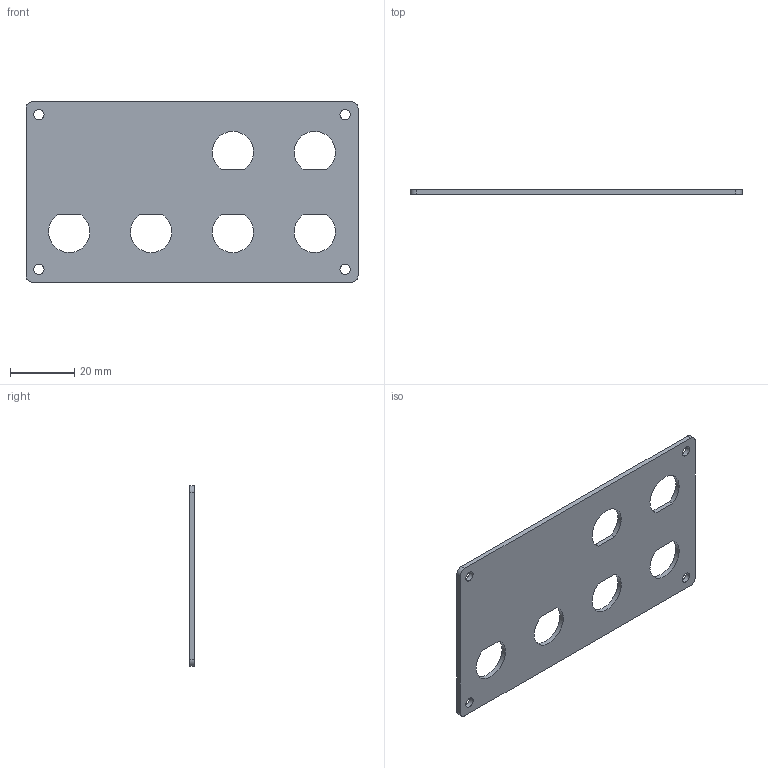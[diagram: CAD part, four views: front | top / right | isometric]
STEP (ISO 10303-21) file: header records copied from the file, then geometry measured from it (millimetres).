
FILE_DESCRIPTION( ( 'Unknown' ), '1' );
FILE_NAME( 'C:/Users/heha/Konstruktion/Shunts/Blech vorn redux.stp', 'Unknown', ( 'Unknown' ), ( 'Unknown' ), 'XStep 1.0', 'Unknown', ' ' );
FILE_SCHEMA( ( 'CONFIG_CONTROL_DESIGN' ) );
Length unit declared in the file: millimetre
Products named in the file (1): 1
Bounding box: 103 x 1.5 x 56 mm (x, y, z)
Volume: 7488.7 mm3; surface area: 10875.1 mm2
Topology: 1 solids, 1 shells, 26 faces, 72 edges, 48 vertices
Faces by surface type: cylinder 14, plane 12
Full cylindrical faces by diameter (mm): 3.2 x4
Entity records: 908 total; most frequent: DIRECTION 150, CARTESIAN_POINT 143, ORIENTED_EDGE 136, EDGE_CURVE 68, AXIS2_PLACEMENT_3D 55, EDGE_LOOP 50, VERTEX_POINT 48, LINE 40
